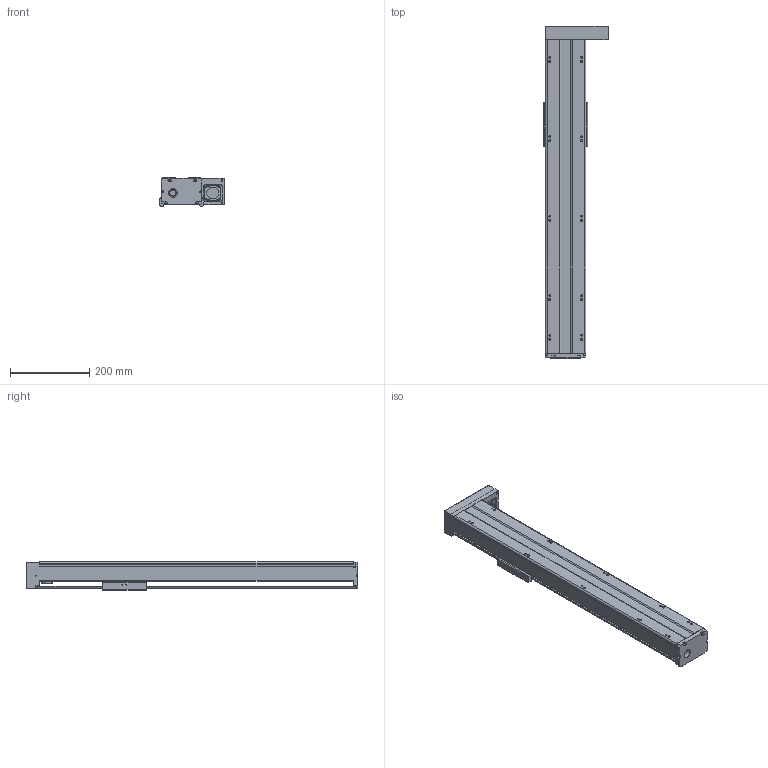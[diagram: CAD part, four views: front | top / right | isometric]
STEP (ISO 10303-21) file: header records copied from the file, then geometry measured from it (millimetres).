
FILE_DESCRIPTION(/* description */ (''),/* implementation_level */ '2;1');
FILE_NAME(/* name */ 'TKA100-FR-600_asm1.stp',/* time_stamp */ '2016-05-17T15:42:21+08:00',/* author */ (''),/* organization */ (''),/* preprocessor_version */ 'ST-DEVELOPER v15',/* originating_system */ 'SIEMENS PLM Software NX 8.5',/* authorisation */ '');
FILE_SCHEMA (('AUTOMOTIVE_DESIGN { 1 0 10303 214 3 1 1 1 }'));
Length unit declared in the file: millimetre
Products named in the file (3): 200-2; 200-1; TKA100-FR-600_asm1
Assembly tree (2 placements, depth 2):
  TKA100-FR-600_asm1
    200-1
    200-2
Bounding box: 162 x 836 x 71 mm (x, y, z)
Volume: 1837191.6 mm3; surface area: 627641.4 mm2
Topology: 2 solids, 16 shells, 798 faces, 2074 edges, 1353 vertices
Faces by surface type: plane 322, cylinder 301, cone 121, torus 28, bspline 26
Full cylindrical faces by diameter (mm): 2.5 x6, 2.6 x8, 3.3 x11, 3.4 x4, 3.8 x8, 4.2 x19, 4.3 x4, 4.5 x6, 5 x2, 5.5 x18, 6.6 x4, 8 x4, 9 x6, 10 x11, 11 x4, 12 x6, 15.3 x1, 16 x1, 22 x1, 24 x1, 28 x2, 30 x1, 33 x1
Entity records: 29066 total; most frequent: CARTESIAN_POINT 10602, DIRECTION 3787, ORIENTED_EDGE 3584, EDGE_CURVE 1792, AXIS2_PLACEMENT_3D 1495, VERTEX_POINT 1270, EDGE_LOOP 1097, ADVANCED_FACE 798
